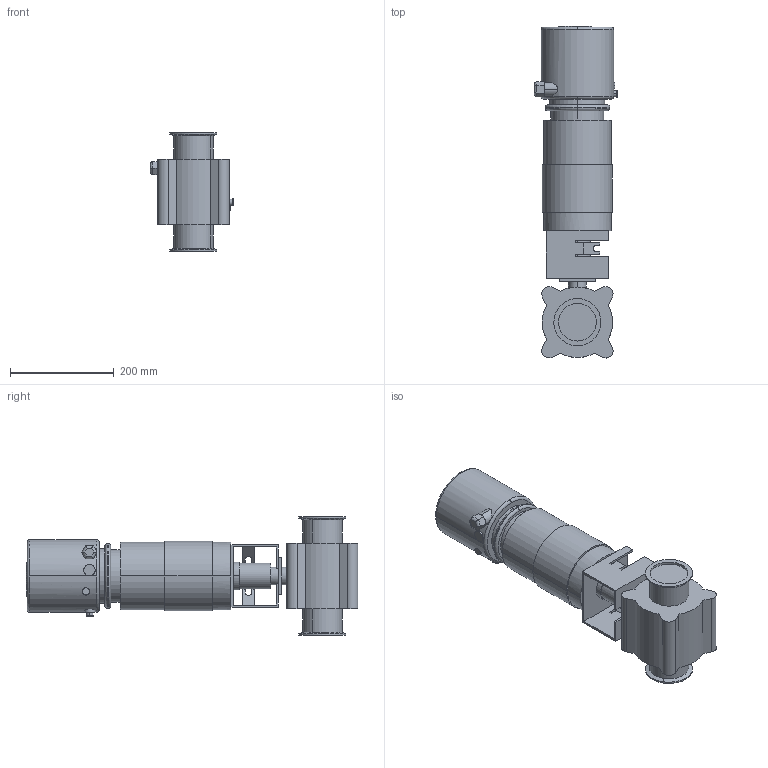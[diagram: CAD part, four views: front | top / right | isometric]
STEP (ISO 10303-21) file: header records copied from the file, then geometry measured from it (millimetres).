
FILE_DESCRIPTION(('Creo Elements/Direct Modeling STEP Export'),'2;1');
FILE_NAME('BLV1-3T-NC-12CL-CU4.stp','2019-05-10T 8:26:44',(''),(''),'Creo Elements/Direct Modeling STEP processor for AP214 (Solid Model)','Creo Elements/Direct Modeling 19.0F 14-Feb-2017 (C) Parametric Technology GmbH','');
FILE_SCHEMA(('AUTOMOTIVE_DESIGN { 1 0 10303 214 1 1 1 1 }'));
Length unit declared in the file: millimetre
Products named in the file (2): BLV1-3T-NC-12CL-CU4
Assembly tree (1 placements, depth 2):
  BLV1-3T-NC-12CL-CU4
    BLV1-3T-NC-12CL-CU4
Bounding box: 161.4 x 640.49 x 229 mm (x, y, z)
Volume: 8454694.5 mm3; surface area: 440502.2 mm2
Topology: 1 solids, 2 shells, 257 faces, 658 edges, 429 vertices
Faces by surface type: cylinder 123, plane 120, torus 10, cone 4
Entity records: 10668 total; most frequent: CARTESIAN_POINT 4531, ORIENTED_EDGE 1318, DIRECTION 1185, EDGE_CURVE 659, AXIS2_PLACEMENT_3D 435, VERTEX_POINT 429, VECTOR 315, LINE 315
